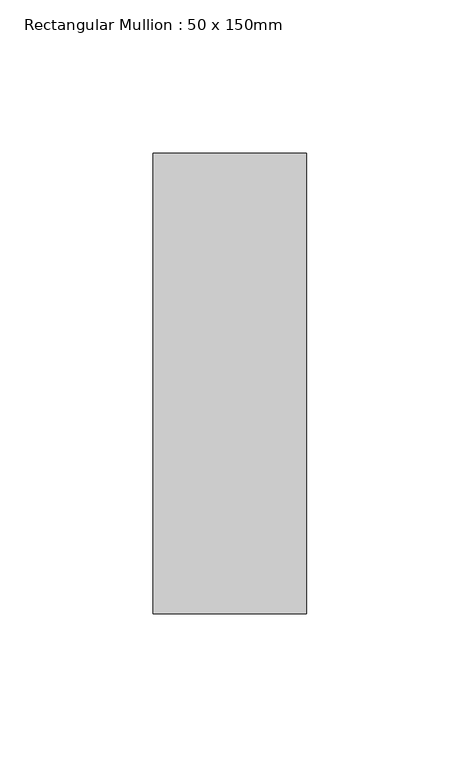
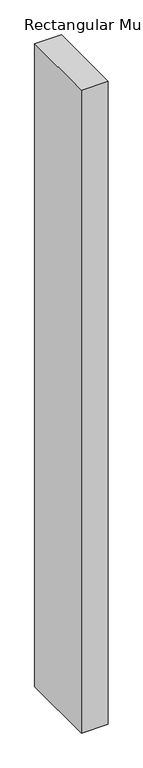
"""IFC4 building model written with IfcOpenShell, lengths in millimetres: member geometry, Rectangular Mullion : 50 x 150mm."""

import ifcopenshell
import ifcopenshell.guid

model = None  # the IFC model being written
_history = None  # IfcOwnerHistory: only IFC2X3 demands one
_inside = {}  # id of a spatial element -> (the spatial element, [elements in it])
_under = {}  # id of a project, library or spatial element -> (it, [spatial elements below it])
_declared = {}  # id of a project -> (the project, [libraries it declares])
_typed = {}  # id of a type object -> (the type object, [elements of that type])
_made_of = {}  # id of a material, layer set ... -> (it, [elements and type objects made of it])


def new_model(schema):
    """Start an empty IFC model of exactly this schema.

    Asked for "IFC4X3", IfcOpenShell would pick the latest addendum, in which some entities
    have other attributes; the version numbers below select the first issue.
    IFC2X3 requires an IfcOwnerHistory on every rooted entity: one is made here for all.
    """
    global model, _history
    if schema == "IFC4X3":
        model = ifcopenshell.file(schema_version=(4, 3, 0, 0))
    else:
        model = ifcopenshell.file(schema=schema)
    _inside.clear()
    _under.clear()
    _declared.clear()
    _typed.clear()
    _made_of.clear()
    _history = None
    if model.schema == "IFC2X3":
        org = make("IfcOrganization", Name="unknown")
        user = make(
            "IfcPersonAndOrganization",
            ThePerson=make("IfcPerson", FamilyName="unknown"),
            TheOrganization=org,
        )
        app = make(
            "IfcApplication",
            ApplicationDeveloper=org,
            Version="unknown",
            ApplicationFullName="unknown",
            ApplicationIdentifier="unknown",
        )
        _history = make(
            "IfcOwnerHistory",
            OwningUser=user,
            OwningApplication=app,
            ChangeAction="ADDED",
            CreationDate=0,
        )
    return model


def make(cls, **values):
    """One entity of the class cls with the attributes given. An attribute that is None is left unset."""
    return model.create_entity(
        cls, **{name: value for name, value in values.items() if value is not None}
    )


def rooted(cls, **values):
    """An entity with a GlobalId (a new one), such as an element, a storey or a relation."""
    return make(cls, GlobalId=ifcopenshell.guid.new(), OwnerHistory=_history, **values)


def si_unit(unit_type, name, prefix=None):
    """IfcSIUnit, for example si_unit("LENGTHUNIT", "METRE", prefix="MILLI")."""
    return make("IfcSIUnit", UnitType=unit_type, Prefix=prefix, Name=name)


def assignment(units):
    """IfcUnitAssignment: the units of a project."""
    return None if units is None else make("IfcUnitAssignment", Units=units)


def point(xyz):
    """IfcCartesianPoint."""
    return None if xyz is None else make("IfcCartesianPoint", Coordinates=xyz)


def direction(xyz):
    """IfcDirection."""
    return None if xyz is None else make("IfcDirection", DirectionRatios=xyz)


def frame(location, z_axis=None, x_axis=None):
    """IfcAxis2Placement3D, a coordinate frame: its origin and axes. An axis left out is left unset."""
    return make(
        "IfcAxis2Placement3D",
        Location=point(location),
        Axis=direction(z_axis),
        RefDirection=direction(x_axis),
    )


def origin():
    """The frame at (0, 0, 0) with its axes left unset."""
    return frame((0.0, 0.0, 0.0))


def place(relative_to, where):
    """IfcLocalPlacement: puts the frame where relative to a parent placement (None: the world)."""
    return make(
        "IfcLocalPlacement", PlacementRelTo=relative_to, RelativePlacement=where
    )


def context(
    kind, dimensions, precision=None, world=None, true_north=None, identifier=None
):
    """IfcGeometricRepresentationContext, for example the 3D "Model" context."""
    return make(
        "IfcGeometricRepresentationContext",
        ContextIdentifier=identifier,
        ContextType=kind,
        CoordinateSpaceDimension=dimensions,
        Precision=precision,
        WorldCoordinateSystem=world,
        TrueNorth=true_north,
    )


def project(units=None, contexts=None):
    """IfcProject with its units and contexts."""
    return rooted(
        "IfcProject",
        Name="project",
        RepresentationContexts=contexts,
        UnitsInContext=assignment(units),
    )


def spatial(cls, under=None, at=None, **own):
    """A site, building, storey or space (cls), placed at a placement, below another one or the project."""
    s = rooted(cls, ObjectPlacement=at, **own)
    if under is not None:
        _under.setdefault(under.id(), (under, []))[1].append(s)
    return s


def polyline(points):
    """IfcPolyline through the points."""
    return make("IfcPolyline", Points=[point(p) for p in points])


def outline(outer, holes=None, kind="AREA"):
    """IfcArbitraryClosedProfileDef: a profile drawn as a closed curve; with holes, ...WithVoids."""
    if holes is None:
        return make("IfcArbitraryClosedProfileDef", ProfileType=kind, OuterCurve=outer)
    return make(
        "IfcArbitraryProfileDefWithVoids",
        ProfileType=kind,
        OuterCurve=outer,
        InnerCurves=holes,
    )


def extrude(swept, where, along, depth):
    """IfcExtrudedAreaSolid: the profile swept, set in the frame where, extruded along a direction by depth."""
    return make(
        "IfcExtrudedAreaSolid",
        SweptArea=swept,
        Position=where,
        ExtrudedDirection=direction(along),
        Depth=depth,
    )


def shape(context_of_items, identifier, shape_type, items):
    """IfcShapeRepresentation: the items that make up one representation, for example the "Body"."""
    return make(
        "IfcShapeRepresentation",
        ContextOfItems=context_of_items,
        RepresentationIdentifier=identifier,
        RepresentationType=shape_type,
        Items=items,
    )


def source(mapping_origin, context_of_items, identifier, shape_type, items):
    """IfcRepresentationMap: a shape defined once, which mapped items show again and again."""
    return make(
        "IfcRepresentationMap",
        MappingOrigin=mapping_origin,
        MappedRepresentation=shape(context_of_items, identifier, shape_type, items),
    )


def transform(
    local_origin,
    x_axis=None,
    y_axis=None,
    z_axis=None,
    scale=None,
    scale2=None,
    scale3=None,
    uniform=True,
):
    """IfcCartesianTransformationOperator3D, or its non-uniform kind. x_axis, y_axis, z_axis: its Axis1, 2, 3."""
    if uniform:
        return make(
            "IfcCartesianTransformationOperator3D",
            Axis1=direction(x_axis),
            Axis2=direction(y_axis),
            LocalOrigin=point(local_origin),
            Scale=scale,
            Axis3=direction(z_axis),
        )
    return make(
        "IfcCartesianTransformationOperator3DnonUniform",
        Axis1=direction(x_axis),
        Axis2=direction(y_axis),
        LocalOrigin=point(local_origin),
        Scale=scale,
        Axis3=direction(z_axis),
        Scale2=scale2,
        Scale3=scale3,
    )


def mapped(mapping_source, mapping_target):
    """IfcMappedItem: shows the shape of a source again, moved by a transform."""
    return make(
        "IfcMappedItem", MappingSource=mapping_source, MappingTarget=mapping_target
    )


def made_of(thing, what):
    """Note that an element or type object is made of a material, layer set ...; save() writes the relation."""
    if what is not None:
        _made_of.setdefault(what.id(), (what, []))[1].append(thing)
    return thing


def element(
    cls,
    number,
    at=None,
    inside=None,
    cuts=None,
    type_object=None,
    material=None,
    context=None,
    identifier="Body",
    shape_type=None,
    held_by="IfcProductDefinitionShape",
    body=None,
    shapes=None,
    **own,
):
    """One element of the class cls, such as IfcWall. Its Tag is "e" and its number.

    at: its placement. inside: the storey or other place that contains it. cuts: it is an
    opening in that element (IfcRelVoidsElement). A single representation is given by context,
    identifier, shape_type and body (its items); several are given by shapes. held_by: the class
    of the entity that holds the representations. save() writes the other relations.
    """
    e = rooted(cls, Tag="e%d" % number, ObjectPlacement=at, **own)
    if body is not None:
        shapes = [shape(context, identifier, shape_type, body)]
    if shapes is not None:
        e.Representation = make(held_by, Representations=shapes)
    if inside is not None:
        _inside.setdefault(inside.id(), (inside, []))[1].append(e)
    if cuts is not None:
        rooted(
            "IfcRelVoidsElement", RelatingBuildingElement=cuts, RelatedOpeningElement=e
        )
    if type_object is not None:
        _typed.setdefault(type_object.id(), (type_object, []))[1].append(e)
    return made_of(e, material)


def aggregate(whole, parts):
    """IfcRelAggregates: a whole, such as a stair, and the parts it consists of."""
    return rooted("IfcRelAggregates", RelatingObject=whole, RelatedObjects=parts)


def save(model, path):
    """Write the relations noted so far, then the file.

    IfcRelAggregates (storeys below a building ...), IfcRelContainedInSpatialStructure (elements
    in a storey), IfcRelDefinesByType, IfcRelAssociatesMaterial and IfcRelDeclares: one each for
    every whole, place, type object, material and project.
    """
    for whole, parts in _under.values():
        aggregate(whole, parts)
    for where, things in _inside.values():
        rooted(
            "IfcRelContainedInSpatialStructure",
            RelatedElements=things,
            RelatingStructure=where,
        )
    for kind, things in _typed.values():
        rooted("IfcRelDefinesByType", RelatedObjects=things, RelatingType=kind)
    for what, things in _made_of.values():
        rooted("IfcRelAssociatesMaterial", RelatedObjects=things, RelatingMaterial=what)
    for by, libraries in _declared.values():
        rooted("IfcRelDeclares", RelatingContext=by, RelatedDefinitions=libraries)
    model.write(path)


def rectangular_mullion_50_x_150mm_18e46138(model_context):
    return source(origin(), model_context, "Body", "SweptSolid", [
        extrude(outline(polyline([(25.0, 75.0), (25.0, -75.0), (-25.0, -75.0), (-25.0, 75.0), (25.0, 75.0)])), frame((0.0, 0.0, -1262.5000002), z_axis=(0.0, 0.0, 1.0), x_axis=(1.0, 0.0, 0.0)), (0.0, 0.0, 1.0), 1262.5000002),
    ])


if __name__ == "__main__":
    model = new_model("IFC4")
    model_context = context("Model", 3, world=origin())
    ifc_project = project(units=[si_unit("LENGTHUNIT", "METRE", prefix="MILLI")], contexts=[model_context])
    site = spatial("IfcSite", under=ifc_project)
    building = spatial("IfcBuilding", under=site)
    placement = place(None, origin())
    rectangular_mullion_50_x_150mm_shape = rectangular_mullion_50_x_150mm_18e46138(model_context)
    element("IfcMember", 1, ObjectType="Rectangular Mullion : 50 x 150mm", at=placement, inside=building, context=model_context, shape_type="MappedRepresentation", body=[
        mapped(rectangular_mullion_50_x_150mm_shape, transform((0.0, 0.0, 0.0), x_axis=(1.0, 0.0, 0.0), y_axis=(0.0, 1.0, 0.0), z_axis=(0.0, 0.0, 1.0))),
    ])
    save(model, "model.ifc")
